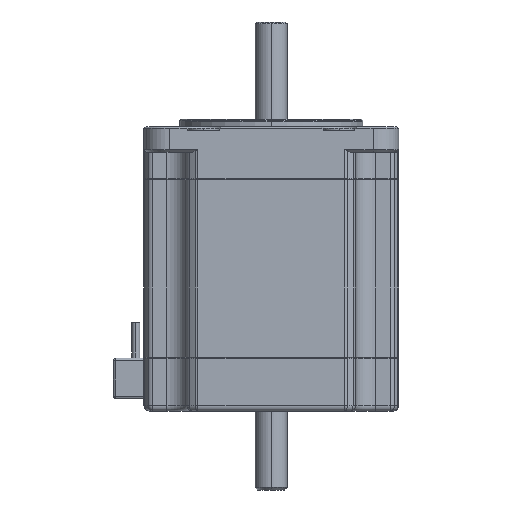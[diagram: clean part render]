
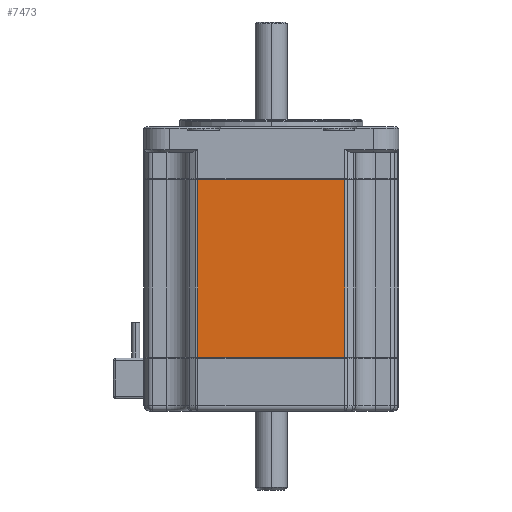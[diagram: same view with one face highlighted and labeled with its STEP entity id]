
A CAD part, left-side view. The second image highlights one B-rep face of the part: STEP entity #7473.
In plain terms, the highlighted planar face has unit normal (-1, 0, 0).
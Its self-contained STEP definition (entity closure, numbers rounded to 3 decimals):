
#453 = CARTESIAN_POINT ( 'NONE',  ( -25., -14.422, -45.2 ) ) ;
#454 = CARTESIAN_POINT ( 'NONE',  ( -25., -14.422, -10.4 ) ) ;
#455 = CARTESIAN_POINT ( 'NONE',  ( -25., 14.422, -45.2 ) ) ;
#456 = CARTESIAN_POINT ( 'NONE',  ( -25., 14.422, -10.4 ) ) ;
#2596 = FACE_OUTER_BOUND ( 'NONE', #3160, .T. ) ;
#2601 = AXIS2_PLACEMENT_3D ( 'NONE', #15018, #15019, #15020 ) ;
#3160 = EDGE_LOOP ( 'NONE', ( #5290, #5292, #5291, #5293 ) ) ;
#3399 = VERTEX_POINT ( 'NONE', #453 ) ;
#3400 = VERTEX_POINT ( 'NONE', #454 ) ;
#3401 = VERTEX_POINT ( 'NONE', #455 ) ;
#3402 = VERTEX_POINT ( 'NONE', #456 ) ;
#5290 = ORIENTED_EDGE ( 'NONE', *, *, #5983, .F. ) ;
#5291 = ORIENTED_EDGE ( 'NONE', *, *, #5980, .T. ) ;
#5292 = ORIENTED_EDGE ( 'NONE', *, *, #5982, .T. ) ;
#5293 = ORIENTED_EDGE ( 'NONE', *, *, #5984, .T. ) ;
#5980 = EDGE_CURVE ( 'NONE', #3399, #3400, #15921, .T. ) ;
#5982 = EDGE_CURVE ( 'NONE', #3401, #3399, #15933, .T. ) ;
#5983 = EDGE_CURVE ( 'NONE', #3401, #3402, #15938, .T. ) ;
#5984 = EDGE_CURVE ( 'NONE', #3400, #3402, #15944, .T. ) ;
#7473 = ADVANCED_FACE ( 'NONE', ( #2596 ), #15017, .F. ) ;
#15017 = PLANE ( 'NONE',  #2601 ) ;
#15018 = CARTESIAN_POINT ( 'NONE',  ( -25., 14.422, -45.4 ) ) ;
#15019 = DIRECTION ( 'NONE',  ( 1., 0., 0. ) ) ;
#15020 = DIRECTION ( 'NONE',  ( 0., 1., 0. ) ) ;
#15921 = LINE ( 'NONE', #15923, #17848 ) ;
#15923 = CARTESIAN_POINT ( 'NONE',  ( -25., -14.422, -45.4 ) ) ;
#15925 = DIRECTION ( 'NONE',  ( 0., 0., 1. ) ) ;
#15933 = LINE ( 'NONE', #15935, #17849 ) ;
#15935 = CARTESIAN_POINT ( 'NONE',  ( -25., -14.422, -45.2 ) ) ;
#15936 = DIRECTION ( 'NONE',  ( 0., -1., 0. ) ) ;
#15938 = LINE ( 'NONE', #15940, #17851 ) ;
#15940 = CARTESIAN_POINT ( 'NONE',  ( -25., 14.422, -45.4 ) ) ;
#15942 = DIRECTION ( 'NONE',  ( 0., 0., 1. ) ) ;
#15944 = LINE ( 'NONE', #15946, #17853 ) ;
#15946 = CARTESIAN_POINT ( 'NONE',  ( -25., 14.422, -10.4 ) ) ;
#15948 = DIRECTION ( 'NONE',  ( 0., 1., 0. ) ) ;
#17848 = VECTOR ( 'NONE', #15925, 1000. ) ;
#17849 = VECTOR ( 'NONE', #15936, 1000. ) ;
#17851 = VECTOR ( 'NONE', #15942, 1000. ) ;
#17853 = VECTOR ( 'NONE', #15948, 1000. ) ;
